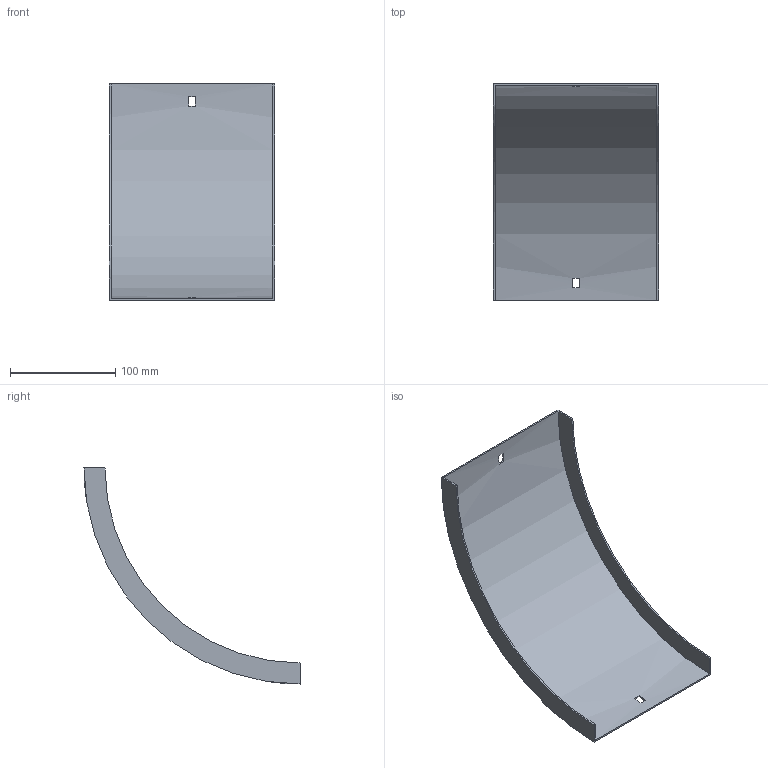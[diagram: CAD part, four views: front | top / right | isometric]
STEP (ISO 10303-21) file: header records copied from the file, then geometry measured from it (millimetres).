
FILE_DESCRIPTION (( 'STEP AP214' ), '1' );
FILE_NAME ('33N1D150.step', '2025-02-21T09:17:00', ( '' ), ( '' ), 'SwSTEP 2.0', 'SolidWorks 2023', '' );
FILE_SCHEMA (( 'AUTOMOTIVE_DESIGN' ));
Length unit declared in the file: millimetre
Products named in the file (1): 33N1D150
Bounding box: 157 x 205.5 x 205.5 mm (x, y, z)
Volume: 92543.7 mm3; surface area: 124944.6 mm2
Topology: 1 solids, 1 shells, 18 faces, 48 edges, 32 vertices
Faces by surface type: plane 14, cylinder 4
Entity records: 599 total; most frequent: DIRECTION 102, CARTESIAN_POINT 99, ORIENTED_EDGE 96, EDGE_CURVE 48, AXIS2_PLACEMENT_3D 35, VECTOR 32, LINE 32, VERTEX_POINT 32
